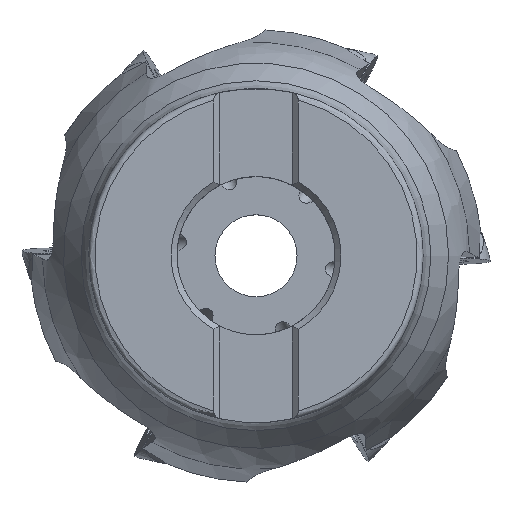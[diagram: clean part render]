
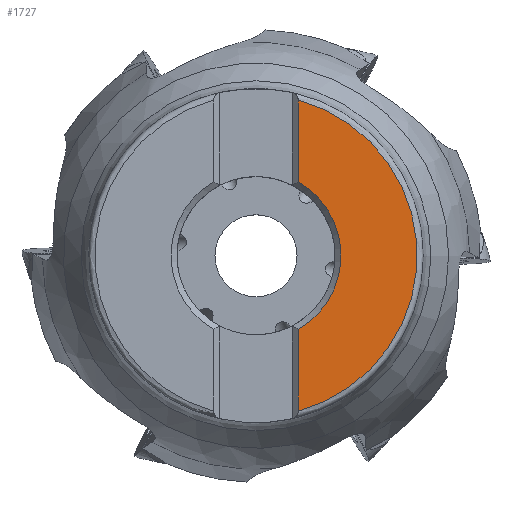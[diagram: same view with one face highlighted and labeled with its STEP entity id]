
A CAD part, top view. The second image highlights one B-rep face of the part: STEP entity #1727.
In plain terms, the highlighted planar face has unit normal (0, 0, 1).
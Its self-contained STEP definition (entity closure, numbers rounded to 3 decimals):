
#1482=FACE_OUTER_BOUND('',#2728,.T.);
#1727=ADVANCED_FACE('',(#1482),#1953,.F.);
#1953=PLANE('',#6859);
#2072=LINE('',#10739,#2260);
#2073=LINE('',#10743,#2261);
#2260=VECTOR('',#7819,1.);
#2261=VECTOR('',#7822,1.);
#2728=EDGE_LOOP('',(#3439,#3440,#3441,#3442));
#3439=ORIENTED_EDGE('',*,*,#5775,.T.);
#3440=ORIENTED_EDGE('',*,*,#5776,.T.);
#3441=ORIENTED_EDGE('',*,*,#5777,.T.);
#3442=ORIENTED_EDGE('',*,*,#5778,.T.);
#5044=VERTEX_POINT('',#10737);
#5045=VERTEX_POINT('',#10738);
#5046=VERTEX_POINT('',#10740);
#5047=VERTEX_POINT('',#10742);
#5775=EDGE_CURVE('',#5044,#5045,#6445,.T.);
#5776=EDGE_CURVE('',#5045,#5046,#2072,.T.);
#5777=EDGE_CURVE('',#5046,#5047,#6446,.T.);
#5778=EDGE_CURVE('',#5047,#5044,#2073,.T.);
#6445=CIRCLE('',#6857,14.5);
#6446=CIRCLE('',#6858,27.5);
#6857=AXIS2_PLACEMENT_3D('',#10736,#7817,#7818);
#6858=AXIS2_PLACEMENT_3D('',#10741,#7820,#7821);
#6859=AXIS2_PLACEMENT_3D('',#10744,#7823,#7824);
#7817=DIRECTION('',(0.,0.,-1.));
#7818=DIRECTION('',(-1.,0.,0.));
#7819=DIRECTION('',(0.,-1.,0.));
#7820=DIRECTION('',(0.,0.,1.));
#7821=DIRECTION('',(-1.,0.,0.));
#7822=DIRECTION('',(0.,-1.,0.));
#7823=DIRECTION('',(0.,0.,-1.));
#7824=DIRECTION('',(1.,0.,0.));
#10736=CARTESIAN_POINT('',(0.,0.,0.));
#10737=CARTESIAN_POINT('',(7.2,12.586,0.));
#10738=CARTESIAN_POINT('',(7.2,-12.586,0.));
#10739=CARTESIAN_POINT('',(7.2,0.,0.));
#10740=CARTESIAN_POINT('',(7.2,-26.541,0.));
#10741=CARTESIAN_POINT('',(0.,0.,0.));
#10742=CARTESIAN_POINT('',(7.2,26.541,0.));
#10743=CARTESIAN_POINT('',(7.2,0.,0.));
#10744=CARTESIAN_POINT('',(-28.5,0.,0.));
